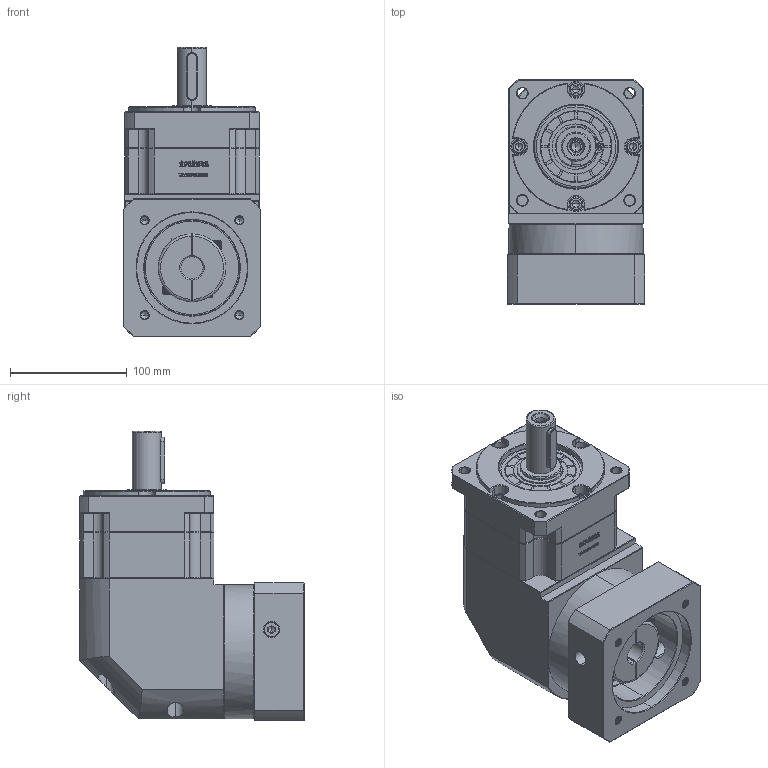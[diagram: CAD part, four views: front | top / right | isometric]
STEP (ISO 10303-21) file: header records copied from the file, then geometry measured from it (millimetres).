
FILE_DESCRIPTION (( 'STEP AP214' ), '1' );
FILE_NAME ('ZBR115A-D25-L1-19-95-115-M8.step', '2023-03-03T04:54:43', ( '' ), ( 'Microsoft' ), 'SwSTEP 2.0', 'SolidWorks 2016', '' );
FILE_SCHEMA (( 'AUTOMOTIVE_DESIGN' ));
Length unit declared in the file: millimetre
Products named in the file (1): ZBR115A-D25-L1-19-95-115-M8
Bounding box: 118 x 192.4 x 248 mm (x, y, z)
Volume: 2961592.5 mm3; surface area: 246657 mm2
Topology: 6 solids, 6 shells, 2980 faces, 7922 edges, 5088 vertices
Faces by surface type: plane 1559, bspline 606, cylinder 439, cone 368, torus 8
Entity records: 161765 total; most frequent: CARTESIAN_POINT 59755, ORIENTED_EDGE 15784, DIRECTION 11953, EDGE_CURVE 7892, VECTOR 5305, LINE 5305, VERTEX_POINT 5088, AXIS2_PLACEMENT_3D 3324
